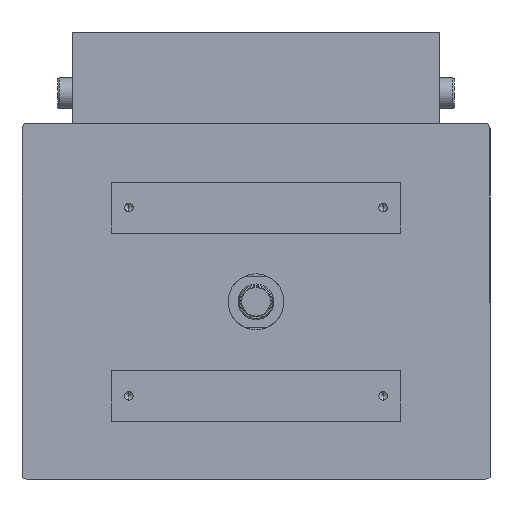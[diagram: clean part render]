
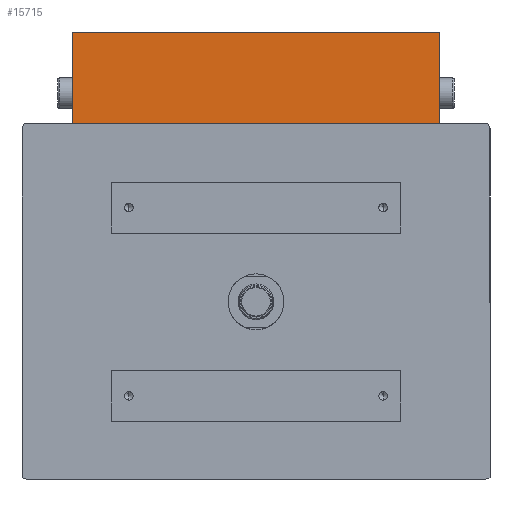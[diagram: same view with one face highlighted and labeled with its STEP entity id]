
A CAD part, front view. The second image highlights one B-rep face of the part: STEP entity #15715.
In plain terms, the highlighted planar face has unit normal (0, -1, 0).
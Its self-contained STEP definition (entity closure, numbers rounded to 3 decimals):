
#919 = DIRECTION ( 'NONE',  ( 0., 0., -1. ) ) ;
#1024 = ORIENTED_EDGE ( 'NONE', *, *, #16259, .F. ) ;
#1083 = LINE ( 'NONE', #7737, #7505 ) ;
#1979 = FACE_OUTER_BOUND ( 'NONE', #16372, .T. ) ;
#2195 = VECTOR ( 'NONE', #6730, 1000. ) ;
#2597 = VERTEX_POINT ( 'NONE', #3686 ) ;
#2637 = CARTESIAN_POINT ( 'NONE',  ( 180., -21.432, 175. ) ) ;
#2930 = EDGE_CURVE ( 'NONE', #2597, #6683, #4597, .T. ) ;
#3083 = VERTEX_POINT ( 'NONE', #11711 ) ;
#3686 = CARTESIAN_POINT ( 'NONE',  ( -180., -21.432, 265. ) ) ;
#4597 = LINE ( 'NONE', #7150, #11832 ) ;
#4619 = ORIENTED_EDGE ( 'NONE', *, *, #12261, .F. ) ;
#4892 = DIRECTION ( 'NONE',  ( 0., 1., 0. ) ) ;
#6683 = VERTEX_POINT ( 'NONE', #11725 ) ;
#6730 = DIRECTION ( 'NONE',  ( -1., 0., 0. ) ) ;
#7150 = CARTESIAN_POINT ( 'NONE',  ( -180., -21.432, 265. ) ) ;
#7505 = VECTOR ( 'NONE', #919, 1000. ) ;
#7737 = CARTESIAN_POINT ( 'NONE',  ( 180., -21.432, 265. ) ) ;
#8519 = DIRECTION ( 'NONE',  ( 0., 0., -1. ) ) ;
#8718 = AXIS2_PLACEMENT_3D ( 'NONE', #8900, #4892, #14489 ) ;
#8900 = CARTESIAN_POINT ( 'NONE',  ( 180., -21.432, 265. ) ) ;
#10236 = PLANE ( 'NONE',  #8718 ) ;
#11572 = ORIENTED_EDGE ( 'NONE', *, *, #15271, .T. ) ;
#11711 = CARTESIAN_POINT ( 'NONE',  ( 180., -21.432, 175. ) ) ;
#11725 = CARTESIAN_POINT ( 'NONE',  ( -180., -21.432, 175. ) ) ;
#11832 = VECTOR ( 'NONE', #8519, 1000. ) ;
#12261 = EDGE_CURVE ( 'NONE', #3083, #6683, #13595, .T. ) ;
#13595 = LINE ( 'NONE', #2637, #2195 ) ;
#13837 = LINE ( 'NONE', #14771, #17515 ) ;
#14489 = DIRECTION ( 'NONE',  ( 0., 0., 1. ) ) ;
#14770 = ORIENTED_EDGE ( 'NONE', *, *, #2930, .T. ) ;
#14771 = CARTESIAN_POINT ( 'NONE',  ( 180., -21.432, 265. ) ) ;
#15271 = EDGE_CURVE ( 'NONE', #16002, #2597, #13837, .T. ) ;
#15715 = ADVANCED_FACE ( 'NONE', ( #1979 ), #10236, .F. ) ;
#16002 = VERTEX_POINT ( 'NONE', #16780 ) ;
#16203 = DIRECTION ( 'NONE',  ( -1., 0., 0. ) ) ;
#16259 = EDGE_CURVE ( 'NONE', #16002, #3083, #1083, .T. ) ;
#16372 = EDGE_LOOP ( 'NONE', ( #14770, #4619, #1024, #11572 ) ) ;
#16780 = CARTESIAN_POINT ( 'NONE',  ( 180., -21.432, 265. ) ) ;
#17515 = VECTOR ( 'NONE', #16203, 1000. ) ;
